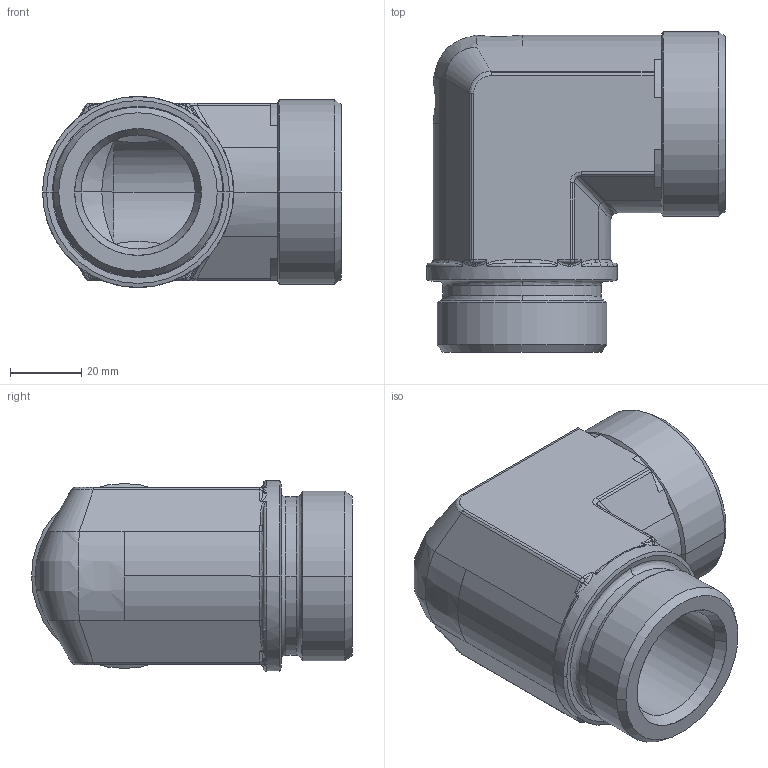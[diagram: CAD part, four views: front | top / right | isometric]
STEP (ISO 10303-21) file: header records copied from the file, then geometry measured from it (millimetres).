
FILE_DESCRIPTION((''),'2;1');
FILE_NAME('102323.stp','2007-10-31T10:26:04',(''),(''),'AutoCAD STEP 2000i','AutoCAD 2000i',', , ');
FILE_SCHEMA(('CONFIG_CONTROL_DESIGN'));
Length unit declared in the file: millimetre
Products named in the file (2): 102323.0; 3090#0
Assembly tree (1 placements, depth 2):
  102323.0
    3090#0
Bounding box: 83.75 x 89.91 x 53.5 mm (x, y, z)
Volume: 141095.9 mm3; surface area: 34523 mm2
Topology: 1 solids, 1 shells, 183 faces, 450 edges, 266 vertices
Faces by surface type: cylinder 78, bspline 46, plane 29, cone 24, torus 6
Entity records: 9678 total; most frequent: CARTESIAN_POINT 5436, ORIENTED_EDGE 892, DIRECTION 859, EDGE_CURVE 446, AXIS2_PLACEMENT_3D 357, VERTEX_POINT 266, CIRCLE 200, EDGE_LOOP 186
